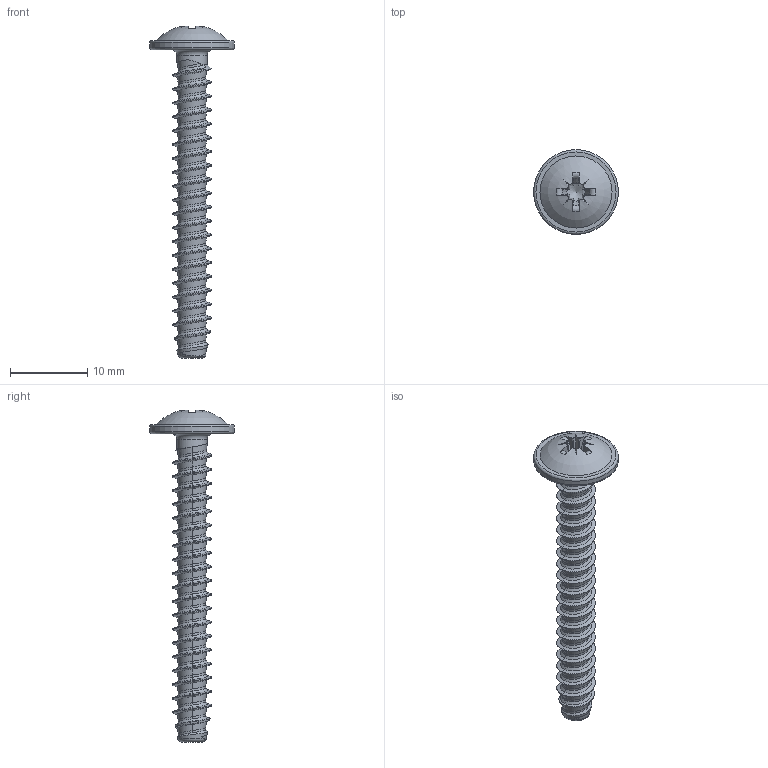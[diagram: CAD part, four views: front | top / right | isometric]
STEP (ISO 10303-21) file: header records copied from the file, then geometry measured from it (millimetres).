
FILE_DESCRIPTION(/* description */ (''),/* implementation_level */ '2;1');
FILE_NAME(/* name */ 'KN6031-STSplus-50x40-Z2.step',/* time_stamp */ '2017-10-09T16:59:20+02:00',/* author */ (''),/* organization */ (''),/* preprocessor_version */ 'ST-DEVELOPER v16',/* originating_system */ 'SIEMENS PLM Software NX 10.0',/* authorisation */ '');
FILE_SCHEMA (('AUTOMOTIVE_DESIGN { 1 0 10303 214 3 1 1 1 }'));
Length unit declared in the file: millimetre
Products named in the file (1): KN6031-STSplus-50x40-Z2
Bounding box: 11 x 11 x 43.09 mm (x, y, z)
Volume: 654.4 mm3; surface area: 985.2 mm2
Topology: 1 solids, 1 shells, 163 faces, 391 edges, 231 vertices
Faces by surface type: bspline 109, plane 27, cylinder 11, torus 8, cone 7, sphere 1
Full cylindrical faces by diameter (mm): 3.92 x1, 11 x1
Entity records: 10730 total; most frequent: CARTESIAN_POINT 7713, ORIENTED_EDGE 754, EDGE_CURVE 377, DIRECTION 343, VERTEX_POINT 226, B_SPLINE_CURVE_WITH_KNOTS 192, EDGE_LOOP 172, ADVANCED_FACE 163
